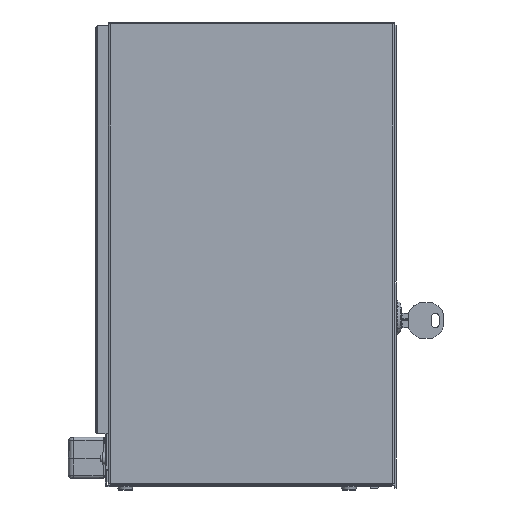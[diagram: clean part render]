
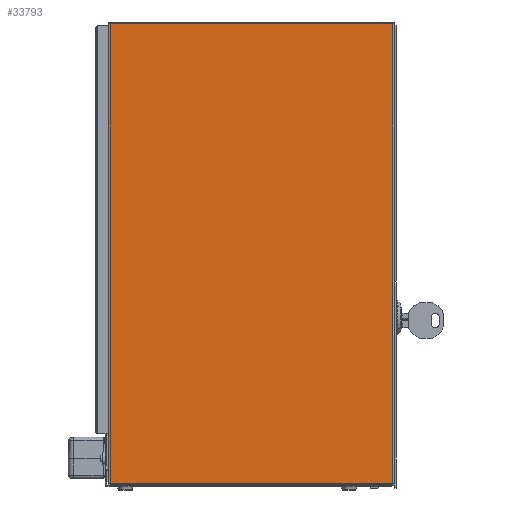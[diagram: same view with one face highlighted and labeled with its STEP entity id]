
A CAD part, left-side view. The second image highlights one B-rep face of the part: STEP entity #33793.
In plain terms, the highlighted planar face has unit normal (-1, 0, 0).
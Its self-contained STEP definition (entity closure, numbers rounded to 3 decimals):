
#1352 = CARTESIAN_POINT ( 'NONE',  ( -52., 69.3, 148.3 ) ) ;
#1415 = LINE ( 'NONE', #1352, #75942 ) ;
#5152 = CARTESIAN_POINT ( 'NONE',  ( -52., -99.3, 148.3 ) ) ;
#5361 = ORIENTED_EDGE ( 'NONE', *, *, #57169, .F. ) ;
#6275 = VECTOR ( 'NONE', #23651, 1000. ) ;
#7254 = DIRECTION ( 'NONE',  ( 0., -1., 0. ) ) ;
#8605 = CARTESIAN_POINT ( 'NONE',  ( -52., 84.3, -148.3 ) ) ;
#10743 = FACE_OUTER_BOUND ( 'NONE', #66078, .T. ) ;
#12857 = VECTOR ( 'NONE', #54231, 1000. ) ;
#14529 = DIRECTION ( 'NONE',  ( 0., 0., 1. ) ) ;
#18931 = CARTESIAN_POINT ( 'NONE',  ( -52., -99.3, -150.3 ) ) ;
#20173 = EDGE_CURVE ( 'NONE', #43213, #60886, #21979, .T. ) ;
#21902 = CARTESIAN_POINT ( 'NONE',  ( -52., 84.3, -150.3 ) ) ;
#21979 = LINE ( 'NONE', #41257, #6275 ) ;
#23651 = DIRECTION ( 'NONE',  ( 0., 0., -1. ) ) ;
#28887 = CARTESIAN_POINT ( 'NONE',  ( -52., 70.5, 149.5 ) ) ;
#33793 = ADVANCED_FACE ( 'NONE', ( #10743 ), #64041, .T. ) ;
#35850 = ORIENTED_EDGE ( 'NONE', *, *, #20173, .F. ) ;
#37778 = EDGE_CURVE ( 'NONE', #45259, #43213, #1415, .T. ) ;
#38526 = LINE ( 'NONE', #8605, #54104 ) ;
#40790 = DIRECTION ( 'NONE',  ( 0., 0., -1. ) ) ;
#41257 = CARTESIAN_POINT ( 'NONE',  ( -52., -99.3, -19.5 ) ) ;
#43213 = VERTEX_POINT ( 'NONE', #5152 ) ;
#44162 = ORIENTED_EDGE ( 'NONE', *, *, #50973, .F. ) ;
#45053 = ORIENTED_EDGE ( 'NONE', *, *, #37778, .F. ) ;
#45259 = VERTEX_POINT ( 'NONE', #56164 ) ;
#50213 = AXIS2_PLACEMENT_3D ( 'NONE', #28887, #75823, #40790 ) ;
#50973 = EDGE_CURVE ( 'NONE', #60886, #66839, #63554, .T. ) ;
#54104 = VECTOR ( 'NONE', #14529, 1000. ) ;
#54231 = DIRECTION ( 'NONE',  ( 0., 1., 0. ) ) ;
#56164 = CARTESIAN_POINT ( 'NONE',  ( -52., 84.3, 148.3 ) ) ;
#57169 = EDGE_CURVE ( 'NONE', #66839, #45259, #38526, .T. ) ;
#60886 = VERTEX_POINT ( 'NONE', #66125 ) ;
#63554 = LINE ( 'NONE', #18931, #12857 ) ;
#64041 = PLANE ( 'NONE',  #50213 ) ;
#66078 = EDGE_LOOP ( 'NONE', ( #45053, #5361, #44162, #35850 ) ) ;
#66125 = CARTESIAN_POINT ( 'NONE',  ( -52., -99.3, -150.3 ) ) ;
#66839 = VERTEX_POINT ( 'NONE', #21902 ) ;
#75823 = DIRECTION ( 'NONE',  ( -1., 0., 0. ) ) ;
#75942 = VECTOR ( 'NONE', #7254, 1000. ) ;
